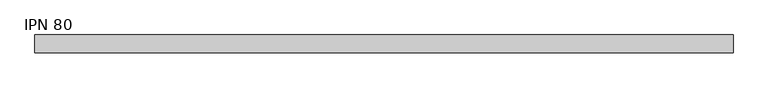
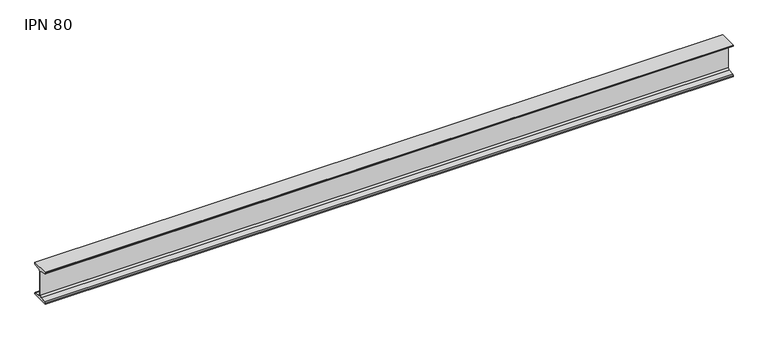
"""IFC4 building model written with IfcOpenShell, lengths in millimetres: beam geometry, IPN - Secciones en I con alas cónicas : IPN 80."""

from ifc_helpers import new_model, si_unit, point, frame, frame_2d, origin, place, context, project, spatial, polyline, circle_curve, trimmed, segment, composite_curve, outline, extrude, source, transform, mapped, element, save


def ipn_80_96fa54d6(model_context):
    return source(origin(), model_context, "Body", "SweptSolid", [
        extrude(outline(composite_curve([segment(polyline([(21.0, 40.0), (21.0, 37.5704306)]), True, "CONTINUOUS"), segment(trimmed(circle_curve(frame_2d((18.7, 37.5704306)), 2.3), [point((21.0, 37.5704306))], [point((19.01889, 35.2926446))], False, "CARTESIAN"), True, "CONTINUOUS"), segment(polyline([(19.01889, 35.2926446), (5.3092734, 33.3732983)]), True, "CONTINUOUS"), segment(trimmed(circle_curve(frame_2d((5.85, 29.5109655)), 3.9), [point((5.3092734, 33.3732983))], [point((1.95, 29.5109655))], True, "CARTESIAN"), True, "CONTINUOUS"), segment(polyline([(1.95, 29.5109655), (1.95, -29.5109655)]), True, "CONTINUOUS"), segment(trimmed(circle_curve(frame_2d((5.85, -29.5109655)), 3.9), [point((1.95, -29.5109655))], [point((5.3092734, -33.3732983))], True, "CARTESIAN"), True, "CONTINUOUS"), segment(polyline([(5.3092734, -33.3732983), (19.01889, -35.2926446)]), True, "CONTINUOUS"), segment(trimmed(circle_curve(frame_2d((18.7, -37.5704306)), 2.3), [point((19.01889, -35.2926446))], [point((21.0, -37.5704306))], False, "CARTESIAN"), True, "CONTINUOUS"), segment(polyline([(21.0, -37.5704306), (21.0, -40.0), (-21.0, -40.0), (-21.0, -37.5704306)]), True, "CONTINUOUS"), segment(trimmed(circle_curve(frame_2d((-18.7, -37.5704306)), 2.3), [point((-21.0, -37.5704306))], [point((-19.01889, -35.2926446))], False, "CARTESIAN"), True, "CONTINUOUS"), segment(polyline([(-19.01889, -35.2926446), (-5.3092734, -33.3732983)]), True, "CONTINUOUS"), segment(trimmed(circle_curve(frame_2d((-5.85, -29.5109655)), 3.9), [point((-5.3092734, -33.3732983))], [point((-1.95, -29.5109655))], True, "CARTESIAN"), True, "CONTINUOUS"), segment(polyline([(-1.95, -29.5109655), (-1.95, 29.5109655)]), True, "CONTINUOUS"), segment(trimmed(circle_curve(frame_2d((-5.85, 29.5109655)), 3.9), [point((-1.95, 29.5109655))], [point((-5.3092734, 33.3732983))], True, "CARTESIAN"), True, "CONTINUOUS"), segment(polyline([(-5.3092734, 33.3732983), (-19.01889, 35.2926446)]), True, "CONTINUOUS"), segment(trimmed(circle_curve(frame_2d((-18.7, 37.5704306)), 2.3), [point((-19.01889, 35.2926446))], [point((-21.0, 37.5704306))], False, "CARTESIAN"), True, "CONTINUOUS"), segment(polyline([(-21.0, 37.5704306), (-21.0, 40.0), (21.0, 40.0)]), True, "CONTINUOUS")], self_intersect=False)), frame((-830.0, 0.0, 0.0), z_axis=(1.0, 0.0, 0.0), x_axis=(0.0, 1.0, 0.0)), (0.0, 0.0, 1.0), 1641.0),
    ])


if __name__ == "__main__":
    model = new_model("IFC4")
    model_context = context("Model", 3, world=origin())
    ifc_project = project(units=[si_unit("LENGTHUNIT", "METRE", prefix="MILLI")], contexts=[model_context])
    site = spatial("IfcSite", under=ifc_project)
    building = spatial("IfcBuilding", under=site)
    placement = place(None, origin())
    ipn_80_shape = ipn_80_96fa54d6(model_context)
    element("IfcBeam", 1, ObjectType="IPN - Secciones en I con alas cónicas : IPN 80", at=placement, inside=building, context=model_context, shape_type="MappedRepresentation", body=[
        mapped(ipn_80_shape, transform((0.0, 0.0, 0.0), x_axis=(1.0, 0.0, 0.0), y_axis=(0.0, 1.0, 0.0), z_axis=(0.0, 0.0, 1.0))),
    ])
    save(model, "model.ifc")
